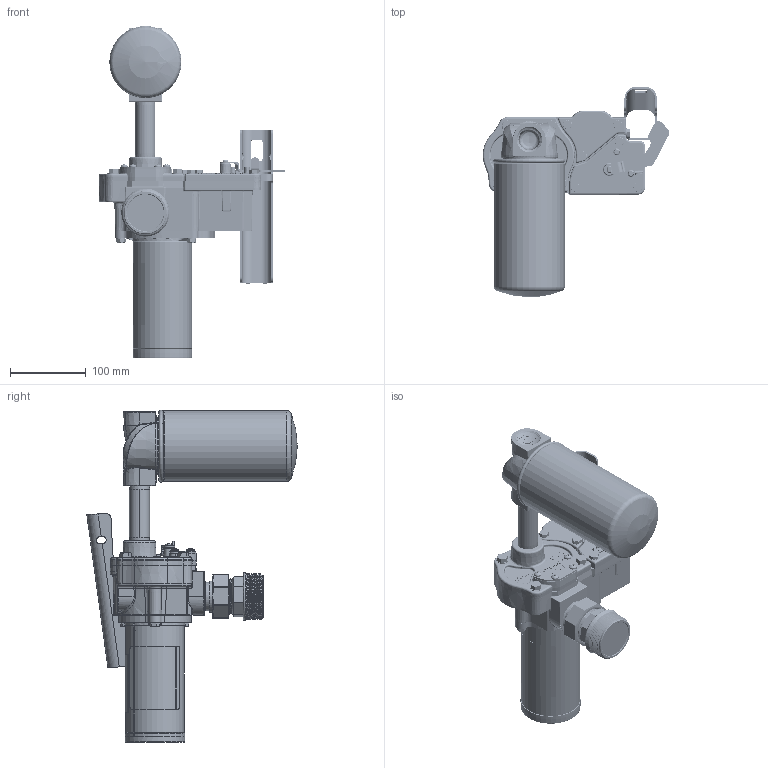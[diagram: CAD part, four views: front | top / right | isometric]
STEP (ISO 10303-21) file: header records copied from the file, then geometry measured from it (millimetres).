
FILE_DESCRIPTION(/* description */ (''),/* implementation_level */ '2;1');
FILE_NAME(/* name */ 'M-150S-with filter.stp',/* time_stamp */ '2024-08-01T13:08:20-05:00',/* author */ ('gdanhar'),/* organization */ (''),/* preprocessor_version */ 'ST-DEVELOPER v20',/* originating_system */ 'Autodesk Inventor 2024',/* authorisation */ '');
FILE_SCHEMA (('AUTOMOTIVE_DESIGN { 1 0 10303 214 3 1 1 }'));
Length unit declared in the file: inch
Products named in the file (5): M-150S-with filter; M-150S-PO; 904006-92; 129420-07; 129300-01-00
Assembly tree (4 placements, depth 2):
  M-150S-with filter
    M-150S-PO
    904006-92
    129420-07
    129300-01-00
Bounding box: 246.25 x 278.03 x 438.58 mm (x, y, z)
Volume: 2656786.5 mm3; surface area: 448379.1 mm2
Topology: 9 solids, 16 shells, 5238 faces, 13682 edges, 8683 vertices
Faces by surface type: plane 2237, bspline 1272, cylinder 900, cone 387, torus 377, sphere 65
Full cylindrical faces by diameter (mm): 1.383 x1, 1.542 x1, 3.048 x1, 4.166 x6, 4.75 x2, 4.826 x4, 5.105 x2, 5.207 x7, 6.35 x3, 6.477 x4, 7.925 x6, 8.509 x3, 9.474 x4, 9.728 x4, 11.125 x6, 11.989 x6, 12.141 x3, 12.7 x2, 15.494 x4, 19.007 x1, 19.05 x1, 23.109 x4, 25.4 x5, 27.94 x1, 37.846 x1, 41.25 x1, 44.45 x1, 45.644 x7, 48.875 x7, 50.8 x1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
Entity records: 267181 total; most frequent: CARTESIAN_POINT 142357, ORIENTED_EDGE 27242, DIRECTION 21036, EDGE_CURVE 13621, VERTEX_POINT 8658, AXIS2_PLACEMENT_3D 7135, LINE 6766, VECTOR 6766
